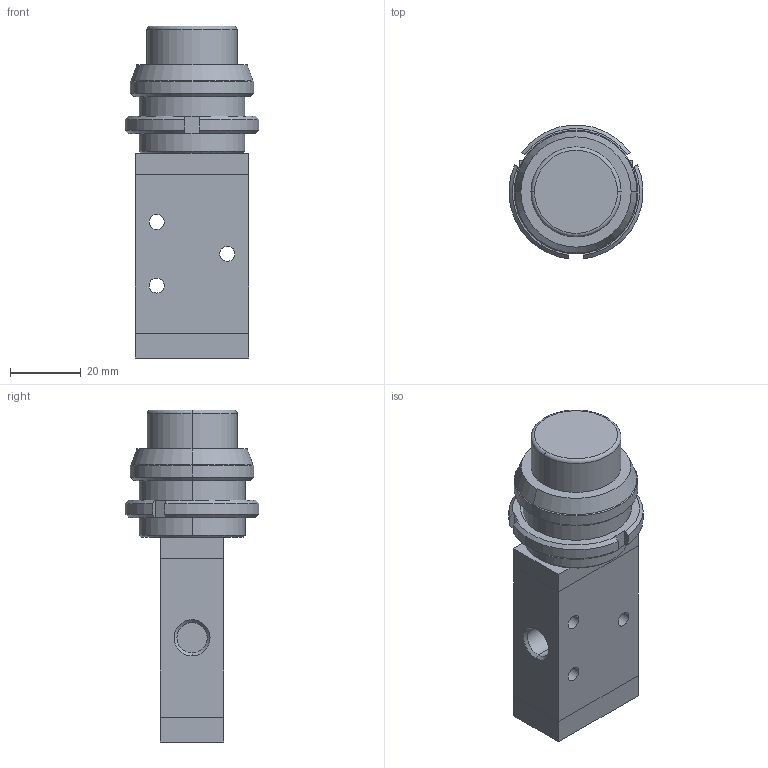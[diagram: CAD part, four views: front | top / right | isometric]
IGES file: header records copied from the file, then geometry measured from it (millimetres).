
Global section: file name: No Iges File Name specified; native system: AutoDesk Inventor R11.0; preprocessor: AutoDesk Inventor Iges Exporter R11.0; author: No Author specified; organization: No Organization specified; date: 20061219.113913; units: millimetre
Bounding box: 37.89 x 37.82 x 94 mm (x, y, z)
Volume: 58230 mm3; surface area: 13993 mm2
Topology: 2 solids, 2 shells, 85 faces, 198 edges, 124 vertices
Faces by surface type: plane 33, bspline 19, cone 14, cylinder 9, revolution 8, torus 2
